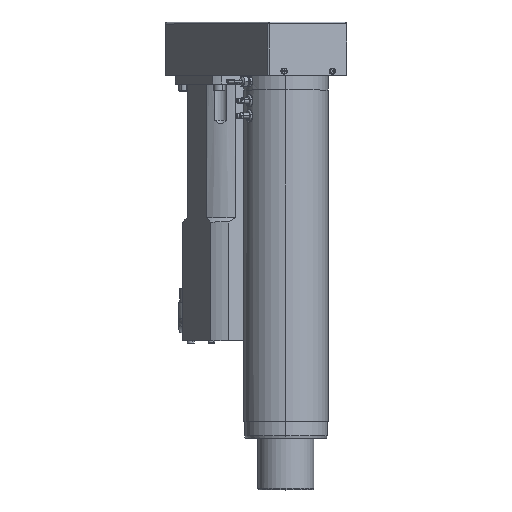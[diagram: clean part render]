
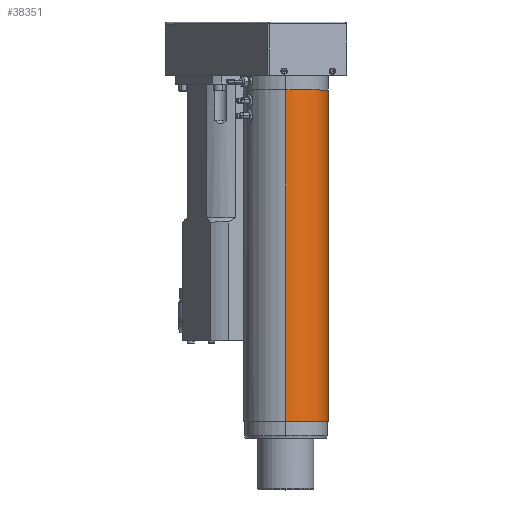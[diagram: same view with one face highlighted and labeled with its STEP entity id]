
A CAD part, top view. The second image highlights one B-rep face of the part: STEP entity #38351.
In plain terms, the highlighted cylindrical face has radius 49 mm (diameter 98 mm), a partial arc.
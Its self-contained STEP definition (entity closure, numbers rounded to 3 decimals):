
#489 = DIRECTION ( 'NONE',  ( 0., -1., 0. ) ) ;
#2030 = ORIENTED_EDGE ( 'NONE', *, *, #39557, .T. ) ;
#2351 = CARTESIAN_POINT ( 'NONE',  ( -22.853, -196.344, 93.093 ) ) ;
#2768 = CIRCLE ( 'NONE', #19191, 49. ) ;
#3595 = EDGE_LOOP ( 'NONE', ( #22159, #2030, #9998, #10200 ) ) ;
#4065 = CARTESIAN_POINT ( 'NONE',  ( -22.853, -196.344, 142.093 ) ) ;
#4992 = CARTESIAN_POINT ( 'NONE',  ( -22.853, -176.344, 93.093 ) ) ;
#7509 = EDGE_CURVE ( 'NONE', #26723, #39690, #15446, .T. ) ;
#9998 = ORIENTED_EDGE ( 'NONE', *, *, #26115, .F. ) ;
#10200 = ORIENTED_EDGE ( 'NONE', *, *, #39177, .F. ) ;
#10305 = VECTOR ( 'NONE', #20351, 1000. ) ;
#12184 = CARTESIAN_POINT ( 'NONE',  ( -22.853, -176.344, 44.093 ) ) ;
#15404 = DIRECTION ( 'NONE',  ( 0., -1., 0. ) ) ;
#15446 = CIRCLE ( 'NONE', #39466, 49. ) ;
#15604 = FACE_OUTER_BOUND ( 'NONE', #3595, .T. ) ;
#19191 = AXIS2_PLACEMENT_3D ( 'NONE', #4992, #21541, #28351 ) ;
#20351 = DIRECTION ( 'NONE',  ( 0., -1., 0. ) ) ;
#21541 = DIRECTION ( 'NONE',  ( 0., -1., 0. ) ) ;
#22159 = ORIENTED_EDGE ( 'NONE', *, *, #7509, .T. ) ;
#24355 = CARTESIAN_POINT ( 'NONE',  ( -22.853, 208.656, 93.093 ) ) ;
#25318 = CYLINDRICAL_SURFACE ( 'NONE', #29354, 49. ) ;
#26115 = EDGE_CURVE ( 'NONE', #32186, #29856, #2768, .T. ) ;
#26723 = VERTEX_POINT ( 'NONE', #36233 ) ;
#28351 = DIRECTION ( 'NONE',  ( 0., 0., -1. ) ) ;
#28512 = DIRECTION ( 'NONE',  ( 0., 0., -1. ) ) ;
#29354 = AXIS2_PLACEMENT_3D ( 'NONE', #2351, #15404, #28512 ) ;
#29856 = VERTEX_POINT ( 'NONE', #37942 ) ;
#32186 = VERTEX_POINT ( 'NONE', #12184 ) ;
#32461 = CARTESIAN_POINT ( 'NONE',  ( -22.853, 208.656, 142.093 ) ) ;
#33051 = LINE ( 'NONE', #36057, #34265 ) ;
#33221 = LINE ( 'NONE', #4065, #10305 ) ;
#34265 = VECTOR ( 'NONE', #489, 1000. ) ;
#34589 = DIRECTION ( 'NONE',  ( 0., -1., 0. ) ) ;
#36057 = CARTESIAN_POINT ( 'NONE',  ( -22.853, -196.344, 44.093 ) ) ;
#36233 = CARTESIAN_POINT ( 'NONE',  ( -22.853, 208.656, 44.093 ) ) ;
#37942 = CARTESIAN_POINT ( 'NONE',  ( -22.853, -176.344, 142.093 ) ) ;
#38351 = ADVANCED_FACE ( 'NONE', ( #15604 ), #25318, .T. ) ;
#39177 = EDGE_CURVE ( 'NONE', #26723, #32186, #33051, .T. ) ;
#39466 = AXIS2_PLACEMENT_3D ( 'NONE', #24355, #34589, #40575 ) ;
#39557 = EDGE_CURVE ( 'NONE', #39690, #29856, #33221, .T. ) ;
#39690 = VERTEX_POINT ( 'NONE', #32461 ) ;
#40575 = DIRECTION ( 'NONE',  ( 0., 0., -1. ) ) ;
